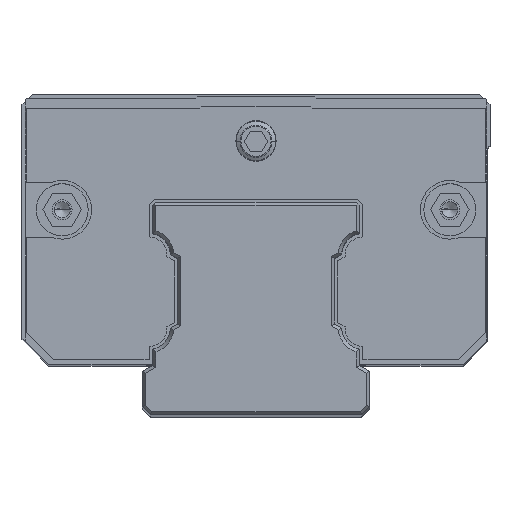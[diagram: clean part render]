
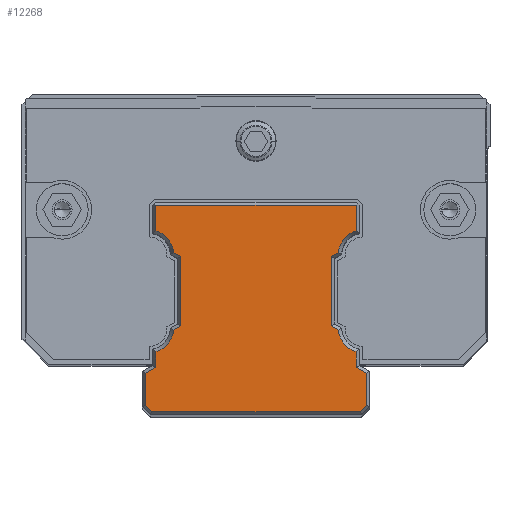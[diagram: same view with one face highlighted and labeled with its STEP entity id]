
A CAD part, top view. The second image highlights one B-rep face of the part: STEP entity #12268.
In plain terms, the highlighted planar face has unit normal (0, 0, 1).
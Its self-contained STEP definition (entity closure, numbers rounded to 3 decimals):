
#11582=DIRECTION('',(-1.,0.,0.));
#11583=VECTOR('',#11582,30.);
#11584=CARTESIAN_POINT('',(15.,12.85,104.5));
#11585=LINE('',#11584,#11583);
#11586=DIRECTION('',(0.,1.,0.));
#11587=VECTOR('',#11586,3.805);
#11588=CARTESIAN_POINT('',(15.,9.045,104.5));
#11589=LINE('',#11588,#11587);
#11590=DIRECTION('',(0.866,0.5,0.));
#11591=VECTOR('',#11590,1.239);
#11592=CARTESIAN_POINT('',(11.25,5.189,104.5));
#11593=LINE('',#11592,#11591);
#11594=DIRECTION('',(0.,1.,0.));
#11595=VECTOR('',#11594,10.377);
#11596=CARTESIAN_POINT('',(11.25,-5.189,104.5));
#11597=LINE('',#11596,#11595);
#11598=DIRECTION('',(-0.866,0.5,0.));
#11599=VECTOR('',#11598,1.239);
#11600=CARTESIAN_POINT('',(12.323,-5.808,
104.5));
#11601=LINE('',#11600,#11599);
#11602=DIRECTION('',(0.,1.,0.));
#11603=VECTOR('',#11602,2.344);
#11604=CARTESIAN_POINT('',(15.,-11.389,104.5));
#11605=LINE('',#11604,#11603);
#11606=DIRECTION('',(-0.866,0.5,0.));
#11607=VECTOR('',#11606,1.732);
#11608=CARTESIAN_POINT('',(16.5,-12.255,104.5));
#11609=LINE('',#11608,#11607);
#11610=DIRECTION('',(0.,1.,0.));
#11611=VECTOR('',#11610,4.838);
#11612=CARTESIAN_POINT('',(16.5,-17.093,104.5));
#11613=LINE('',#11612,#11611);
#11614=DIRECTION('',(0.707,0.707,0.));
#11615=VECTOR('',#11614,1.283);
#11616=CARTESIAN_POINT('',(15.593,-18.,104.5));
#11617=LINE('',#11616,#11615);
#11618=DIRECTION('',(1.,0.,0.));
#11619=VECTOR('',#11618,31.186);
#11620=CARTESIAN_POINT('',(-15.593,-18.,104.5));
#11621=LINE('',#11620,#11619);
#11622=DIRECTION('',(0.707,-0.707,0.));
#11623=VECTOR('',#11622,1.283);
#11624=CARTESIAN_POINT('',(-16.5,-17.093,104.5));
#11625=LINE('',#11624,#11623);
#11626=DIRECTION('',(0.,-1.,0.));
#11627=VECTOR('',#11626,4.838);
#11628=CARTESIAN_POINT('',(-16.5,-12.255,104.5));
#11629=LINE('',#11628,#11627);
#11630=DIRECTION('',(-0.866,-0.5,0.));
#11631=VECTOR('',#11630,1.732);
#11632=CARTESIAN_POINT('',(-15.,-11.389,104.5));
#11633=LINE('',#11632,#11631);
#11634=DIRECTION('',(0.,-1.,0.));
#11635=VECTOR('',#11634,2.344);
#11636=CARTESIAN_POINT('',(-15.,-9.045,
104.5));
#11637=LINE('',#11636,#11635);
#11638=DIRECTION('',(-0.866,-0.5,0.));
#11639=VECTOR('',#11638,1.239);
#11640=CARTESIAN_POINT('',(-11.25,-5.189,104.5));
#11641=LINE('',#11640,#11639);
#11642=DIRECTION('',(0.,-1.,0.));
#11643=VECTOR('',#11642,10.377);
#11644=CARTESIAN_POINT('',(-11.25,5.189,104.5));
#11645=LINE('',#11644,#11643);
#11646=DIRECTION('',(0.866,-0.5,0.));
#11647=VECTOR('',#11646,1.239);
#11648=CARTESIAN_POINT('',(-12.323,5.808,
104.5));
#11649=LINE('',#11648,#11647);
#11650=DIRECTION('',(0.,-1.,0.));
#11651=VECTOR('',#11650,3.805);
#11652=CARTESIAN_POINT('',(-15.,12.85,104.5));
#11653=LINE('',#11652,#11651);
#11681=CARTESIAN_POINT('',(-16.046,5.454,104.5));
#11682=DIRECTION('',(0.,0.,-1.));
#11683=DIRECTION('',(0.28,0.96,0.));
#11684=AXIS2_PLACEMENT_3D('',#11681,#11682,#11683);
#11741=CARTESIAN_POINT('',(-16.046,-5.454,104.5));
#11742=DIRECTION('',(0.,0.,-1.));
#11743=DIRECTION('',(0.996,-0.095,0.));
#11744=AXIS2_PLACEMENT_3D('',#11741,#11742,#11743);
#11873=CARTESIAN_POINT('',(16.046,-5.454,104.5));
#11874=DIRECTION('',(0.,0.,-1.));
#11875=DIRECTION('',(-0.28,-0.96,0.));
#11876=AXIS2_PLACEMENT_3D('',#11873,#11874,#11875);
#11938=CARTESIAN_POINT('',(16.046,5.454,104.5));
#11939=DIRECTION('',(0.,0.,-1.));
#11940=DIRECTION('',(-0.996,0.095,0.));
#11941=AXIS2_PLACEMENT_3D('',#11938,#11939,#11940);
#12030=CARTESIAN_POINT('',(15.,12.85,104.5));
#12031=CARTESIAN_POINT('',(-15.,12.85,104.5));
#12032=VERTEX_POINT('',#12030);
#12033=VERTEX_POINT('',#12031);
#12038=CARTESIAN_POINT('',(15.,9.045,104.5));
#12039=VERTEX_POINT('',#12038);
#12044=CARTESIAN_POINT('',(11.25,5.189,104.5));
#12045=CARTESIAN_POINT('',(12.323,5.808,104.5));
#12046=VERTEX_POINT('',#12044);
#12047=VERTEX_POINT('',#12045);
#12050=CARTESIAN_POINT('',(11.25,-5.189,104.5));
#12051=VERTEX_POINT('',#12050);
#12052=CARTESIAN_POINT('',(12.323,-5.808,
104.5));
#12053=VERTEX_POINT('',#12052);
#12060=CARTESIAN_POINT('',(15.,-11.389,104.5));
#12061=CARTESIAN_POINT('',(15.,-9.045,
104.5));
#12062=VERTEX_POINT('',#12060);
#12063=VERTEX_POINT('',#12061);
#12066=CARTESIAN_POINT('',(16.5,-12.255,104.5));
#12067=VERTEX_POINT('',#12066);
#12070=CARTESIAN_POINT('',(16.5,-17.093,104.5));
#12071=VERTEX_POINT('',#12070);
#12074=CARTESIAN_POINT('',(15.593,-18.,104.5));
#12075=VERTEX_POINT('',#12074);
#12078=CARTESIAN_POINT('',(-15.593,-18.,104.5));
#12079=VERTEX_POINT('',#12078);
#12082=CARTESIAN_POINT('',(-16.5,-17.093,104.5));
#12083=VERTEX_POINT('',#12082);
#12086=CARTESIAN_POINT('',(-16.5,-12.255,104.5));
#12087=VERTEX_POINT('',#12086);
#12090=CARTESIAN_POINT('',(-15.,-11.389,104.5));
#12091=VERTEX_POINT('',#12090);
#12094=CARTESIAN_POINT('',(-15.,-9.045,
104.5));
#12095=VERTEX_POINT('',#12094);
#12100=CARTESIAN_POINT('',(-11.25,-5.189,104.5));
#12101=CARTESIAN_POINT('',(-12.323,-5.808,
104.5));
#12102=VERTEX_POINT('',#12100);
#12103=VERTEX_POINT('',#12101);
#12106=CARTESIAN_POINT('',(-11.25,5.189,104.5));
#12107=VERTEX_POINT('',#12106);
#12110=CARTESIAN_POINT('',(-12.323,5.808,
104.5));
#12111=VERTEX_POINT('',#12110);
#12114=CARTESIAN_POINT('',(-15.,9.045,
104.5));
#12115=VERTEX_POINT('',#12114);
#12219=CARTESIAN_POINT('',(0.,0.,104.5));
#12220=DIRECTION('',(0.,0.,1.));
#12221=DIRECTION('',(1.,0.,0.));
#12222=AXIS2_PLACEMENT_3D('',#12219,#12220,#12221);
#12223=PLANE('',#12222);
#12225=ORIENTED_EDGE('',*,*,#12224,.F.);
#12227=ORIENTED_EDGE('',*,*,#12226,.F.);
#12229=ORIENTED_EDGE('',*,*,#12228,.F.);
#12231=ORIENTED_EDGE('',*,*,#12230,.F.);
#12232=ORIENTED_EDGE('',*,*,#12197,.F.);
#12233=ORIENTED_EDGE('',*,*,#12209,.F.);
#12235=ORIENTED_EDGE('',*,*,#12234,.F.);
#12237=ORIENTED_EDGE('',*,*,#12236,.F.);
#12239=ORIENTED_EDGE('',*,*,#12238,.F.);
#12241=ORIENTED_EDGE('',*,*,#12240,.F.);
#12243=ORIENTED_EDGE('',*,*,#12242,.F.);
#12245=ORIENTED_EDGE('',*,*,#12244,.F.);
#12247=ORIENTED_EDGE('',*,*,#12246,.F.);
#12249=ORIENTED_EDGE('',*,*,#12248,.F.);
#12251=ORIENTED_EDGE('',*,*,#12250,.F.);
#12253=ORIENTED_EDGE('',*,*,#12252,.F.);
#12255=ORIENTED_EDGE('',*,*,#12254,.F.);
#12257=ORIENTED_EDGE('',*,*,#12256,.F.);
#12259=ORIENTED_EDGE('',*,*,#12258,.F.);
#12261=ORIENTED_EDGE('',*,*,#12260,.F.);
#12263=ORIENTED_EDGE('',*,*,#12262,.F.);
#12265=ORIENTED_EDGE('',*,*,#12264,.F.);
#12266=EDGE_LOOP('',(#12225,#12227,#12229,#12231,#12232,#12233,#12235,#12237,
#12239,#12241,#12243,#12245,#12247,#12249,#12251,#12253,#12255,#12257,#12259,
#12261,#12263,#12265));
#12267=FACE_OUTER_BOUND('',#12266,.F.);
#11685=CIRCLE('',#11684,3.74);
#11745=CIRCLE('',#11744,3.74);
#11877=CIRCLE('',#11876,3.74);
#11942=CIRCLE('',#11941,3.74);
#12197=EDGE_CURVE('',#12051,#12046,#11597,.T.);
#12209=EDGE_CURVE('',#12053,#12051,#11601,.T.);
#12224=EDGE_CURVE('',#12032,#12033,#11585,.T.);
#12226=EDGE_CURVE('',#12039,#12032,#11589,.T.);
#12228=EDGE_CURVE('',#12047,#12039,#11942,.T.);
#12230=EDGE_CURVE('',#12046,#12047,#11593,.T.);
#12234=EDGE_CURVE('',#12063,#12053,#11877,.T.);
#12236=EDGE_CURVE('',#12062,#12063,#11605,.T.);
#12238=EDGE_CURVE('',#12067,#12062,#11609,.T.);
#12240=EDGE_CURVE('',#12071,#12067,#11613,.T.);
#12242=EDGE_CURVE('',#12075,#12071,#11617,.T.);
#12244=EDGE_CURVE('',#12079,#12075,#11621,.T.);
#12246=EDGE_CURVE('',#12083,#12079,#11625,.T.);
#12248=EDGE_CURVE('',#12087,#12083,#11629,.T.);
#12250=EDGE_CURVE('',#12091,#12087,#11633,.T.);
#12252=EDGE_CURVE('',#12095,#12091,#11637,.T.);
#12254=EDGE_CURVE('',#12103,#12095,#11745,.T.);
#12256=EDGE_CURVE('',#12102,#12103,#11641,.T.);
#12258=EDGE_CURVE('',#12107,#12102,#11645,.T.);
#12260=EDGE_CURVE('',#12111,#12107,#11649,.T.);
#12262=EDGE_CURVE('',#12115,#12111,#11685,.T.);
#12264=EDGE_CURVE('',#12033,#12115,#11653,.T.);
#12268=ADVANCED_FACE('',(#12267),#12223,.T.);
